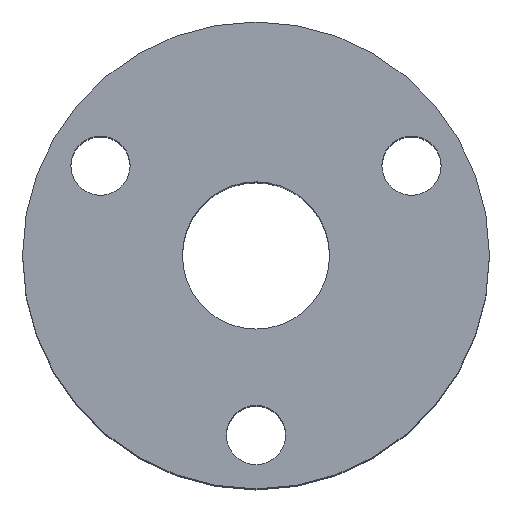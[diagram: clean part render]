
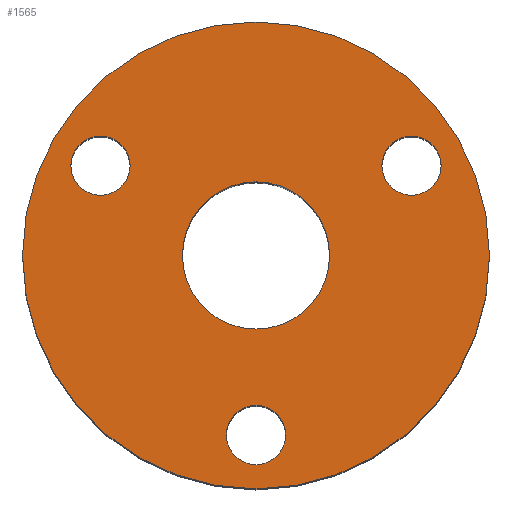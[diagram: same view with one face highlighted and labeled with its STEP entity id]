
A CAD part, top view. The second image highlights one B-rep face of the part: STEP entity #1565.
In plain terms, the highlighted planar face has unit normal (0, 0, 1).
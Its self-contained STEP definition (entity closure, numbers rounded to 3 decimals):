
#450 = CYLINDRICAL_SURFACE('',#451,13.);
#451 = AXIS2_PLACEMENT_3D('',#452,#453,#454);
#452 = CARTESIAN_POINT('',(0.,0.,13.8));
#453 = DIRECTION('',(0.,0.,1.));
#454 = DIRECTION('',(1.,0.,-0.));
#481 = CYLINDRICAL_SURFACE('',#482,1.65);
#482 = AXIS2_PLACEMENT_3D('',#483,#484,#485);
#483 = CARTESIAN_POINT('',(0.,-10.,-20.));
#484 = DIRECTION('',(0.,0.,1.));
#485 = DIRECTION('',(1.,0.,-0.));
#512 = CYLINDRICAL_SURFACE('',#513,1.65);
#513 = AXIS2_PLACEMENT_3D('',#514,#515,#516);
#514 = CARTESIAN_POINT('',(-8.66,5.,-20.));
#515 = DIRECTION('',(0.,0.,1.));
#516 = DIRECTION('',(1.,0.,-0.));
#546 = CYLINDRICAL_SURFACE('',#547,1.65);
#547 = AXIS2_PLACEMENT_3D('',#548,#549,#550);
#548 = CARTESIAN_POINT('',(8.66,5.,-20.));
#549 = DIRECTION('',(0.,0.,1.));
#550 = DIRECTION('',(1.,0.,-0.));
#823 = CYLINDRICAL_SURFACE('',#824,4.1);
#824 = AXIS2_PLACEMENT_3D('',#825,#826,#827);
#825 = CARTESIAN_POINT('',(0.,0.,-18.4));
#826 = DIRECTION('',(0.,0.,1.));
#827 = DIRECTION('',(1.,0.,-0.));
#1080 = EDGE_CURVE('',#1081,#1081,#1083,.T.);
#1081 = VERTEX_POINT('',#1082);
#1082 = CARTESIAN_POINT('',(13.,0.,17.4));
#1083 = SURFACE_CURVE('',#1084,(#1089,#1096),.PCURVE_S1.);
#1084 = CIRCLE('',#1085,13.);
#1085 = AXIS2_PLACEMENT_3D('',#1086,#1087,#1088);
#1086 = CARTESIAN_POINT('',(0.,0.,17.4));
#1087 = DIRECTION('',(0.,0.,1.));
#1088 = DIRECTION('',(1.,0.,-0.));
#1089 = PCURVE('',#450,#1090);
#1090 = DEFINITIONAL_REPRESENTATION('',(#1091),#1095);
#1091 = LINE('',#1092,#1093);
#1092 = CARTESIAN_POINT('',(0.,3.6));
#1093 = VECTOR('',#1094,1.);
#1094 = DIRECTION('',(1.,0.));
#1095 = ( GEOMETRIC_REPRESENTATION_CONTEXT(2) 
PARAMETRIC_REPRESENTATION_CONTEXT() REPRESENTATION_CONTEXT('2D SPACE',''
  ) );
#1096 = PCURVE('',#1097,#1102);
#1097 = PLANE('',#1098);
#1098 = AXIS2_PLACEMENT_3D('',#1099,#1100,#1101);
#1099 = CARTESIAN_POINT('',(0.,0.,17.4));
#1100 = DIRECTION('',(0.,0.,1.));
#1101 = DIRECTION('',(1.,0.,-0.));
#1102 = DEFINITIONAL_REPRESENTATION('',(#1103),#1107);
#1103 = CIRCLE('',#1104,13.);
#1104 = AXIS2_PLACEMENT_2D('',#1105,#1106);
#1105 = CARTESIAN_POINT('',(0.,0.));
#1106 = DIRECTION('',(1.,0.));
#1107 = ( GEOMETRIC_REPRESENTATION_CONTEXT(2) 
PARAMETRIC_REPRESENTATION_CONTEXT() REPRESENTATION_CONTEXT('2D SPACE',''
  ) );
#1135 = EDGE_CURVE('',#1136,#1136,#1138,.T.);
#1136 = VERTEX_POINT('',#1137);
#1137 = CARTESIAN_POINT('',(1.65,-10.,17.4));
#1138 = SURFACE_CURVE('',#1139,(#1144,#1151),.PCURVE_S1.);
#1139 = CIRCLE('',#1140,1.65);
#1140 = AXIS2_PLACEMENT_3D('',#1141,#1142,#1143);
#1141 = CARTESIAN_POINT('',(0.,-10.,17.4));
#1142 = DIRECTION('',(0.,0.,1.));
#1143 = DIRECTION('',(1.,0.,-0.));
#1144 = PCURVE('',#481,#1145);
#1145 = DEFINITIONAL_REPRESENTATION('',(#1146),#1150);
#1146 = LINE('',#1147,#1148);
#1147 = CARTESIAN_POINT('',(0.,37.4));
#1148 = VECTOR('',#1149,1.);
#1149 = DIRECTION('',(1.,0.));
#1150 = ( GEOMETRIC_REPRESENTATION_CONTEXT(2) 
PARAMETRIC_REPRESENTATION_CONTEXT() REPRESENTATION_CONTEXT('2D SPACE',''
  ) );
#1151 = PCURVE('',#1097,#1152);
#1152 = DEFINITIONAL_REPRESENTATION('',(#1153),#1157);
#1153 = CIRCLE('',#1154,1.65);
#1154 = AXIS2_PLACEMENT_2D('',#1155,#1156);
#1155 = CARTESIAN_POINT('',(0.,-10.));
#1156 = DIRECTION('',(1.,0.));
#1157 = ( GEOMETRIC_REPRESENTATION_CONTEXT(2) 
PARAMETRIC_REPRESENTATION_CONTEXT() REPRESENTATION_CONTEXT('2D SPACE',''
  ) );
#1185 = EDGE_CURVE('',#1186,#1186,#1188,.T.);
#1186 = VERTEX_POINT('',#1187);
#1187 = CARTESIAN_POINT('',(-7.01,5.,17.4));
#1188 = SURFACE_CURVE('',#1189,(#1194,#1201),.PCURVE_S1.);
#1189 = CIRCLE('',#1190,1.65);
#1190 = AXIS2_PLACEMENT_3D('',#1191,#1192,#1193);
#1191 = CARTESIAN_POINT('',(-8.66,5.,17.4));
#1192 = DIRECTION('',(0.,0.,1.));
#1193 = DIRECTION('',(1.,0.,-0.));
#1194 = PCURVE('',#512,#1195);
#1195 = DEFINITIONAL_REPRESENTATION('',(#1196),#1200);
#1196 = LINE('',#1197,#1198);
#1197 = CARTESIAN_POINT('',(0.,37.4));
#1198 = VECTOR('',#1199,1.);
#1199 = DIRECTION('',(1.,0.));
#1200 = ( GEOMETRIC_REPRESENTATION_CONTEXT(2) 
PARAMETRIC_REPRESENTATION_CONTEXT() REPRESENTATION_CONTEXT('2D SPACE',''
  ) );
#1201 = PCURVE('',#1097,#1202);
#1202 = DEFINITIONAL_REPRESENTATION('',(#1203),#1207);
#1203 = CIRCLE('',#1204,1.65);
#1204 = AXIS2_PLACEMENT_2D('',#1205,#1206);
#1205 = CARTESIAN_POINT('',(-8.66,5.));
#1206 = DIRECTION('',(1.,0.));
#1207 = ( GEOMETRIC_REPRESENTATION_CONTEXT(2) 
PARAMETRIC_REPRESENTATION_CONTEXT() REPRESENTATION_CONTEXT('2D SPACE',''
  ) );
#1235 = EDGE_CURVE('',#1236,#1236,#1238,.T.);
#1236 = VERTEX_POINT('',#1237);
#1237 = CARTESIAN_POINT('',(10.31,5.,17.4));
#1238 = SURFACE_CURVE('',#1239,(#1244,#1251),.PCURVE_S1.);
#1239 = CIRCLE('',#1240,1.65);
#1240 = AXIS2_PLACEMENT_3D('',#1241,#1242,#1243);
#1241 = CARTESIAN_POINT('',(8.66,5.,17.4));
#1242 = DIRECTION('',(0.,0.,1.));
#1243 = DIRECTION('',(1.,0.,-0.));
#1244 = PCURVE('',#546,#1245);
#1245 = DEFINITIONAL_REPRESENTATION('',(#1246),#1250);
#1246 = LINE('',#1247,#1248);
#1247 = CARTESIAN_POINT('',(0.,37.4));
#1248 = VECTOR('',#1249,1.);
#1249 = DIRECTION('',(1.,0.));
#1250 = ( GEOMETRIC_REPRESENTATION_CONTEXT(2) 
PARAMETRIC_REPRESENTATION_CONTEXT() REPRESENTATION_CONTEXT('2D SPACE',''
  ) );
#1251 = PCURVE('',#1097,#1252);
#1252 = DEFINITIONAL_REPRESENTATION('',(#1253),#1257);
#1253 = CIRCLE('',#1254,1.65);
#1254 = AXIS2_PLACEMENT_2D('',#1255,#1256);
#1255 = CARTESIAN_POINT('',(8.66,5.));
#1256 = DIRECTION('',(1.,0.));
#1257 = ( GEOMETRIC_REPRESENTATION_CONTEXT(2) 
PARAMETRIC_REPRESENTATION_CONTEXT() REPRESENTATION_CONTEXT('2D SPACE',''
  ) );
#1491 = VERTEX_POINT('',#1492);
#1492 = CARTESIAN_POINT('',(4.1,0.,17.4));
#1538 = EDGE_CURVE('',#1491,#1491,#1539,.T.);
#1539 = SURFACE_CURVE('',#1540,(#1545,#1552),.PCURVE_S1.);
#1540 = CIRCLE('',#1541,4.1);
#1541 = AXIS2_PLACEMENT_3D('',#1542,#1543,#1544);
#1542 = CARTESIAN_POINT('',(0.,0.,17.4));
#1543 = DIRECTION('',(0.,0.,1.));
#1544 = DIRECTION('',(1.,0.,-0.));
#1545 = PCURVE('',#823,#1546);
#1546 = DEFINITIONAL_REPRESENTATION('',(#1547),#1551);
#1547 = LINE('',#1548,#1549);
#1548 = CARTESIAN_POINT('',(0.,35.8));
#1549 = VECTOR('',#1550,1.);
#1550 = DIRECTION('',(1.,0.));
#1551 = ( GEOMETRIC_REPRESENTATION_CONTEXT(2) 
PARAMETRIC_REPRESENTATION_CONTEXT() REPRESENTATION_CONTEXT('2D SPACE',''
  ) );
#1552 = PCURVE('',#1097,#1553);
#1553 = DEFINITIONAL_REPRESENTATION('',(#1554),#1558);
#1554 = CIRCLE('',#1555,4.1);
#1555 = AXIS2_PLACEMENT_2D('',#1556,#1557);
#1556 = CARTESIAN_POINT('',(0.,0.));
#1557 = DIRECTION('',(1.,0.));
#1558 = ( GEOMETRIC_REPRESENTATION_CONTEXT(2) 
PARAMETRIC_REPRESENTATION_CONTEXT() REPRESENTATION_CONTEXT('2D SPACE',''
  ) );
#1565 = ADVANCED_FACE('',(#1566,#1569,#1572,#1575,#1578),#1097,.T.);
#1566 = FACE_BOUND('',#1567,.T.);
#1567 = EDGE_LOOP('',(#1568));
#1568 = ORIENTED_EDGE('',*,*,#1080,.T.);
#1569 = FACE_BOUND('',#1570,.T.);
#1570 = EDGE_LOOP('',(#1571));
#1571 = ORIENTED_EDGE('',*,*,#1135,.F.);
#1572 = FACE_BOUND('',#1573,.T.);
#1573 = EDGE_LOOP('',(#1574));
#1574 = ORIENTED_EDGE('',*,*,#1185,.F.);
#1575 = FACE_BOUND('',#1576,.T.);
#1576 = EDGE_LOOP('',(#1577));
#1577 = ORIENTED_EDGE('',*,*,#1538,.F.);
#1578 = FACE_BOUND('',#1579,.T.);
#1579 = EDGE_LOOP('',(#1580));
#1580 = ORIENTED_EDGE('',*,*,#1235,.F.);
